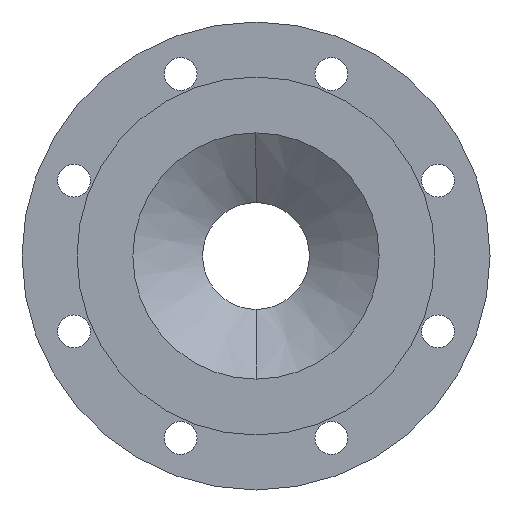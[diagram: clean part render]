
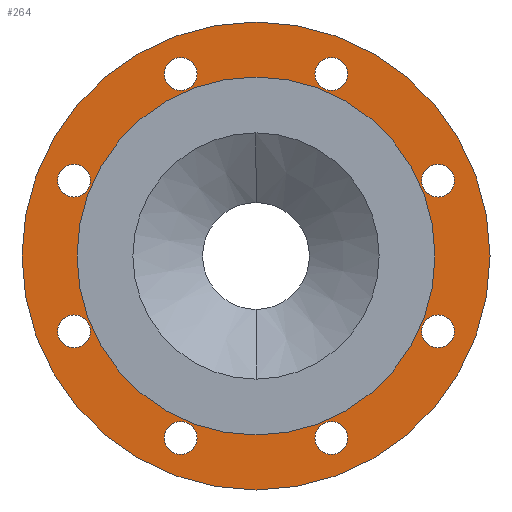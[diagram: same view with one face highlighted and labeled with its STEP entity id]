
A CAD part, left-side view. The second image highlights one B-rep face of the part: STEP entity #264.
In plain terms, the highlighted planar face has unit normal (-1, 0, 0).
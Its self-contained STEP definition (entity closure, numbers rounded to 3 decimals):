
#264=ADVANCED_FACE('',(#518,#519,#520,#521,#522,#523,#524,#525,#526,#527),#528,.F.);
#518=FACE_BOUND('',#842,.T.);
#519=FACE_BOUND('',#843,.T.);
#520=FACE_BOUND('',#844,.T.);
#521=FACE_BOUND('',#845,.T.);
#522=FACE_BOUND('',#846,.T.);
#523=FACE_BOUND('',#847,.T.);
#524=FACE_BOUND('',#848,.T.);
#525=FACE_BOUND('',#849,.T.);
#526=FACE_BOUND('',#850,.T.);
#527=FACE_OUTER_BOUND('',#851,.T.);
#528=PLANE('',#852);
#842=EDGE_LOOP('',(#1260,#1261));
#843=EDGE_LOOP('',(#1262,#1263));
#844=EDGE_LOOP('',(#1264,#1265));
#845=EDGE_LOOP('',(#1266,#1267));
#846=EDGE_LOOP('',(#1268,#1269));
#847=EDGE_LOOP('',(#1270,#1271));
#848=EDGE_LOOP('',(#1272,#1273));
#849=EDGE_LOOP('',(#1274,#1275));
#850=EDGE_LOOP('',(#1276,#1277));
#851=EDGE_LOOP('',(#1278,#1279));
#852=AXIS2_PLACEMENT_3D('',#1280,#1281,#1282);
#1260=ORIENTED_EDGE('',*,*,#1796,.T.);
#1261=ORIENTED_EDGE('',*,*,#1784,.T.);
#1262=ORIENTED_EDGE('',*,*,#1696,.T.);
#1263=ORIENTED_EDGE('',*,*,#1826,.T.);
#1264=ORIENTED_EDGE('',*,*,#1827,.T.);
#1265=ORIENTED_EDGE('',*,*,#1828,.T.);
#1266=ORIENTED_EDGE('',*,*,#1824,.T.);
#1267=ORIENTED_EDGE('',*,*,#1829,.T.);
#1268=ORIENTED_EDGE('',*,*,#1819,.T.);
#1269=ORIENTED_EDGE('',*,*,#1830,.T.);
#1270=ORIENTED_EDGE('',*,*,#1831,.T.);
#1271=ORIENTED_EDGE('',*,*,#1832,.T.);
#1272=ORIENTED_EDGE('',*,*,#1833,.T.);
#1273=ORIENTED_EDGE('',*,*,#1834,.T.);
#1274=ORIENTED_EDGE('',*,*,#1710,.T.);
#1275=ORIENTED_EDGE('',*,*,#1835,.T.);
#1276=ORIENTED_EDGE('',*,*,#1836,.T.);
#1277=ORIENTED_EDGE('',*,*,#1837,.T.);
#1278=ORIENTED_EDGE('',*,*,#1721,.F.);
#1279=ORIENTED_EDGE('',*,*,#1838,.F.);
#1280=CARTESIAN_POINT('',(1.0,0.0,0.));
#1281=DIRECTION('',(1.0,0.0,0.));
#1282=DIRECTION('',(0.,0.0,-1.0));
#1696=EDGE_CURVE('',#1961,#1965,#1967,.T.);
#1710=EDGE_CURVE('',#1985,#1989,#1991,.T.);
#1721=EDGE_CURVE('',#2007,#2010,#2011,.T.);
#1784=EDGE_CURVE('',#2115,#2113,#2116,.T.);
#1796=EDGE_CURVE('',#2113,#2115,#2132,.T.);
#1819=EDGE_CURVE('',#2160,#2164,#2166,.T.);
#1824=EDGE_CURVE('',#2169,#2173,#2175,.T.);
#1826=EDGE_CURVE('',#1965,#1961,#2177,.T.);
#1827=EDGE_CURVE('',#2178,#2179,#2180,.T.);
#1828=EDGE_CURVE('',#2179,#2178,#2181,.T.);
#1829=EDGE_CURVE('',#2173,#2169,#2182,.T.);
#1830=EDGE_CURVE('',#2164,#2160,#2183,.T.);
#1831=EDGE_CURVE('',#2184,#2185,#2186,.T.);
#1832=EDGE_CURVE('',#2185,#2184,#2187,.T.);
#1833=EDGE_CURVE('',#2188,#2189,#2190,.T.);
#1834=EDGE_CURVE('',#2189,#2188,#2191,.T.);
#1835=EDGE_CURVE('',#1989,#1985,#2192,.T.);
#1836=EDGE_CURVE('',#2193,#2194,#2195,.T.);
#1837=EDGE_CURVE('',#2194,#2193,#2196,.T.);
#1838=EDGE_CURVE('',#2010,#2007,#2197,.T.);
#1961=VERTEX_POINT('',#2344);
#1965=VERTEX_POINT('',#2349);
#1967=CIRCLE('',#2352,10.0);
#1985=VERTEX_POINT('',#2375);
#1989=VERTEX_POINT('',#2380);
#1991=CIRCLE('',#2383,10.0);
#2007=VERTEX_POINT('',#2403);
#2010=VERTEX_POINT('',#2407);
#2011=CIRCLE('',#2408,142.5);
#2113=VERTEX_POINT('',#2543);
#2115=VERTEX_POINT('',#2546);
#2116=CIRCLE('',#2547,10.0);
#2132=CIRCLE('',#2566,10.0);
#2160=VERTEX_POINT('',#2604);
#2164=VERTEX_POINT('',#2609);
#2166=CIRCLE('',#2612,10.0);
#2169=VERTEX_POINT('',#2615);
#2173=VERTEX_POINT('',#2620);
#2175=CIRCLE('',#2623,10.0);
#2177=CIRCLE('',#2625,10.0);
#2178=VERTEX_POINT('',#2626);
#2179=VERTEX_POINT('',#2627);
#2180=CIRCLE('',#2628,10.0);
#2181=CIRCLE('',#2629,10.0);
#2182=CIRCLE('',#2630,10.0);
#2183=CIRCLE('',#2631,10.0);
#2184=VERTEX_POINT('',#2632);
#2185=VERTEX_POINT('',#2633);
#2186=CIRCLE('',#2634,10.0);
#2187=CIRCLE('',#2635,10.0);
#2188=VERTEX_POINT('',#2636);
#2189=VERTEX_POINT('',#2637);
#2190=CIRCLE('',#2638,10.0);
#2191=CIRCLE('',#2639,10.0);
#2192=CIRCLE('',#2640,10.0);
#2193=VERTEX_POINT('',#2641);
#2194=VERTEX_POINT('',#2642);
#2195=CIRCLE('',#2643,109.0);
#2196=CIRCLE('',#2644,109.0);
#2197=CIRCLE('',#2645,142.5);
#2344=CARTESIAN_POINT('',(1.0,45.922,-120.866));
#2349=CARTESIAN_POINT('',(1.,45.922,-100.866));
#2352=AXIS2_PLACEMENT_3D('',#2822,#2823,#2824);
#2375=CARTESIAN_POINT('',(1.0,-45.922,-120.866));
#2380=CARTESIAN_POINT('',(1.,-45.922,-100.866));
#2383=AXIS2_PLACEMENT_3D('',#2841,#2842,#2843);
#2403=CARTESIAN_POINT('',(1.,0.0,-142.5));
#2407=CARTESIAN_POINT('',(1.,0.,142.5));
#2408=AXIS2_PLACEMENT_3D('',#2855,#2856,#2857);
#2543=CARTESIAN_POINT('',(1.0,110.866,-55.922));
#2546=CARTESIAN_POINT('',(1.0,110.866,-35.922));
#2547=AXIS2_PLACEMENT_3D('',#2934,#2935,#2936);
#2566=AXIS2_PLACEMENT_3D('',#2955,#2956,#2957);
#2604=CARTESIAN_POINT('',(1.0,110.866,35.922));
#2609=CARTESIAN_POINT('',(1.,110.866,55.922));
#2612=AXIS2_PLACEMENT_3D('',#2976,#2977,#2978);
#2615=CARTESIAN_POINT('',(1.0,-45.922,100.866));
#2620=CARTESIAN_POINT('',(1.,-45.922,120.866));
#2623=AXIS2_PLACEMENT_3D('',#2984,#2985,#2986);
#2625=AXIS2_PLACEMENT_3D('',#2987,#2988,#2989);
#2626=CARTESIAN_POINT('',(1.0,-110.866,35.922));
#2627=CARTESIAN_POINT('',(1.,-110.866,55.922));
#2628=AXIS2_PLACEMENT_3D('',#2990,#2991,#2992);
#2629=AXIS2_PLACEMENT_3D('',#2993,#2994,#2995);
#2630=AXIS2_PLACEMENT_3D('',#2996,#2997,#2998);
#2631=AXIS2_PLACEMENT_3D('',#2999,#3000,#3001);
#2632=CARTESIAN_POINT('',(1.0,45.922,100.866));
#2633=CARTESIAN_POINT('',(1.,45.922,120.866));
#2634=AXIS2_PLACEMENT_3D('',#3002,#3003,#3004);
#2635=AXIS2_PLACEMENT_3D('',#3005,#3006,#3007);
#2636=CARTESIAN_POINT('',(1.0,-110.866,-55.922));
#2637=CARTESIAN_POINT('',(1.0,-110.866,-35.922));
#2638=AXIS2_PLACEMENT_3D('',#3008,#3009,#3010);
#2639=AXIS2_PLACEMENT_3D('',#3011,#3012,#3013);
#2640=AXIS2_PLACEMENT_3D('',#3014,#3015,#3016);
#2641=CARTESIAN_POINT('',(1.,0.0,-109.0));
#2642=CARTESIAN_POINT('',(1.,0.,109.0));
#2643=AXIS2_PLACEMENT_3D('',#3017,#3018,#3019);
#2644=AXIS2_PLACEMENT_3D('',#3020,#3021,#3022);
#2645=AXIS2_PLACEMENT_3D('',#3023,#3024,#3025);
#2822=CARTESIAN_POINT('',(1.,45.922,-110.866));
#2823=DIRECTION('',(1.0,0.0,0.));
#2824=DIRECTION('',(0.,0.0,-1.0));
#2841=CARTESIAN_POINT('',(1.,-45.922,-110.866));
#2842=DIRECTION('',(1.0,0.0,0.));
#2843=DIRECTION('',(0.,0.0,-1.0));
#2855=CARTESIAN_POINT('',(1.0,0.0,0.));
#2856=DIRECTION('',(1.0,0.0,0.));
#2857=DIRECTION('',(0.,0.0,-1.0));
#2934=CARTESIAN_POINT('',(1.0,110.866,-45.922));
#2935=DIRECTION('',(1.0,0.0,0.));
#2936=DIRECTION('',(0.,0.0,-1.0));
#2955=CARTESIAN_POINT('',(1.0,110.866,-45.922));
#2956=DIRECTION('',(1.0,0.0,0.));
#2957=DIRECTION('',(0.,0.0,-1.0));
#2976=CARTESIAN_POINT('',(1.,110.866,45.922));
#2977=DIRECTION('',(1.0,0.0,0.));
#2978=DIRECTION('',(0.,0.0,-1.0));
#2984=CARTESIAN_POINT('',(1.,-45.922,110.866));
#2985=DIRECTION('',(1.0,0.0,0.));
#2986=DIRECTION('',(0.,0.0,-1.0));
#2987=CARTESIAN_POINT('',(1.,45.922,-110.866));
#2988=DIRECTION('',(1.0,0.0,0.));
#2989=DIRECTION('',(0.,0.0,-1.0));
#2990=CARTESIAN_POINT('',(1.,-110.866,45.922));
#2991=DIRECTION('',(1.0,0.0,0.));
#2992=DIRECTION('',(0.,0.0,-1.0));
#2993=CARTESIAN_POINT('',(1.,-110.866,45.922));
#2994=DIRECTION('',(1.0,0.0,0.));
#2995=DIRECTION('',(0.,0.0,-1.0));
#2996=CARTESIAN_POINT('',(1.,-45.922,110.866));
#2997=DIRECTION('',(1.0,0.0,0.));
#2998=DIRECTION('',(0.,0.0,-1.0));
#2999=CARTESIAN_POINT('',(1.,110.866,45.922));
#3000=DIRECTION('',(1.0,0.0,0.));
#3001=DIRECTION('',(0.,0.0,-1.0));
#3002=CARTESIAN_POINT('',(1.,45.922,110.866));
#3003=DIRECTION('',(1.0,0.0,0.));
#3004=DIRECTION('',(0.,0.0,-1.0));
#3005=CARTESIAN_POINT('',(1.,45.922,110.866));
#3006=DIRECTION('',(1.0,0.0,0.));
#3007=DIRECTION('',(0.,0.0,-1.0));
#3008=CARTESIAN_POINT('',(1.0,-110.866,-45.922));
#3009=DIRECTION('',(1.0,0.0,0.));
#3010=DIRECTION('',(0.,0.0,-1.0));
#3011=CARTESIAN_POINT('',(1.0,-110.866,-45.922));
#3012=DIRECTION('',(1.0,0.0,0.));
#3013=DIRECTION('',(0.,0.0,-1.0));
#3014=CARTESIAN_POINT('',(1.,-45.922,-110.866));
#3015=DIRECTION('',(1.0,0.0,0.));
#3016=DIRECTION('',(0.,0.0,-1.0));
#3017=CARTESIAN_POINT('',(1.0,0.0,0.));
#3018=DIRECTION('',(1.0,0.0,0.));
#3019=DIRECTION('',(0.,0.0,-1.0));
#3020=CARTESIAN_POINT('',(1.0,0.0,0.));
#3021=DIRECTION('',(1.0,0.0,0.));
#3022=DIRECTION('',(0.,0.0,-1.0));
#3023=CARTESIAN_POINT('',(1.0,0.0,0.));
#3024=DIRECTION('',(1.0,0.0,0.));
#3025=DIRECTION('',(0.,0.0,-1.0));
